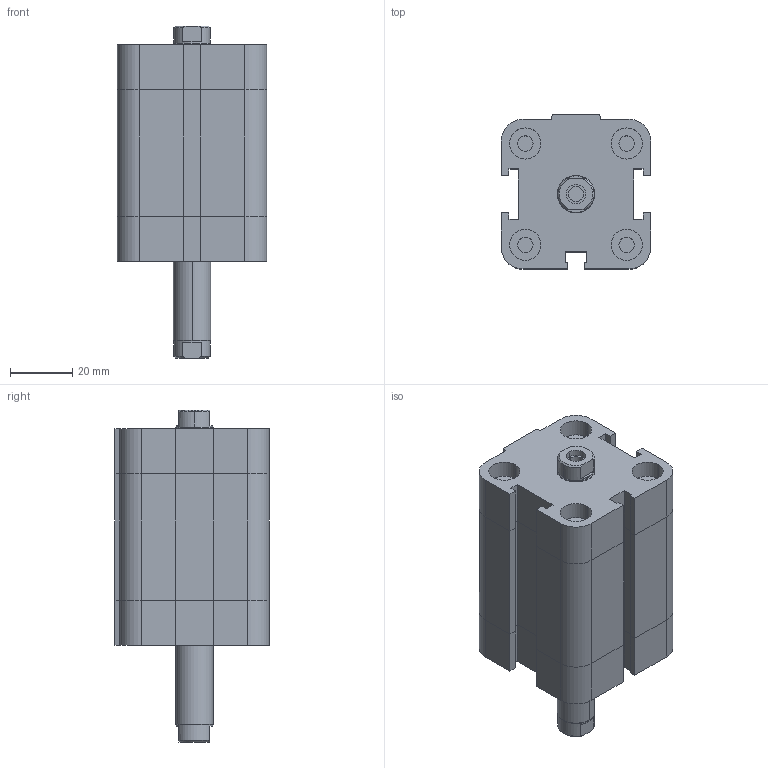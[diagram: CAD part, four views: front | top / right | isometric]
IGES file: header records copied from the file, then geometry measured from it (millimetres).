
Global section: file name: No Iges File Name specified; native system: Autodesk Inventor 2009; preprocessor: AutoDesk Inventor Iges Exporter R2009; author: maffial1; date: 20090420.200336; units: millimetre
Bounding box: 48 x 49.5 x 106.5 mm (x, y, z)
Volume: 142885.2 mm3; surface area: 30816.6 mm2
Topology: 2 solids, 2 shells, 202 faces, 450 edges, 274 vertices
Faces by surface type: plane 114, bspline 42, revolution 20, cylinder 18, cone 8
